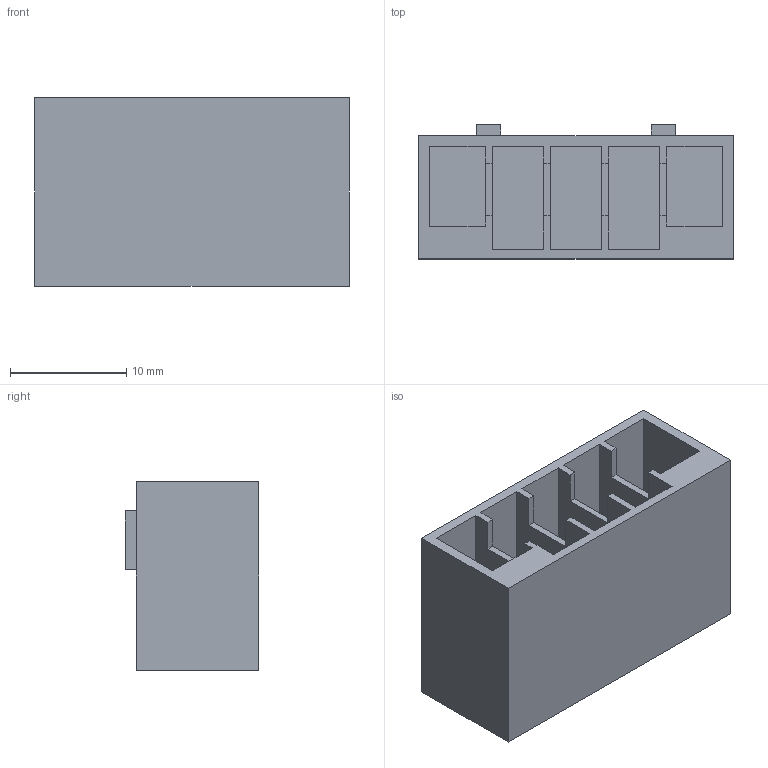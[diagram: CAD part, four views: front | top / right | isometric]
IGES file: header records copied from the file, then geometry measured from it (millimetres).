
Start section:  PTC IGES file: j4-cnp2.igs
Global section: file name: j4-cnp2.igs; native system: Pro/ENGINEER by Parametric Technology Corporation; preprocessor: 2010160; author: CV86875; organization: Unknown; date: 20121031.193707; units: millimetre
Bounding box: 27 x 11.5 x 16.18 mm (x, y, z)
Volume: 2791 mm3; surface area: 2972.8 mm2
Topology: 1 solids, 1 shells, 53 faces, 144 edges, 96 vertices
Faces by surface type: bspline 53
